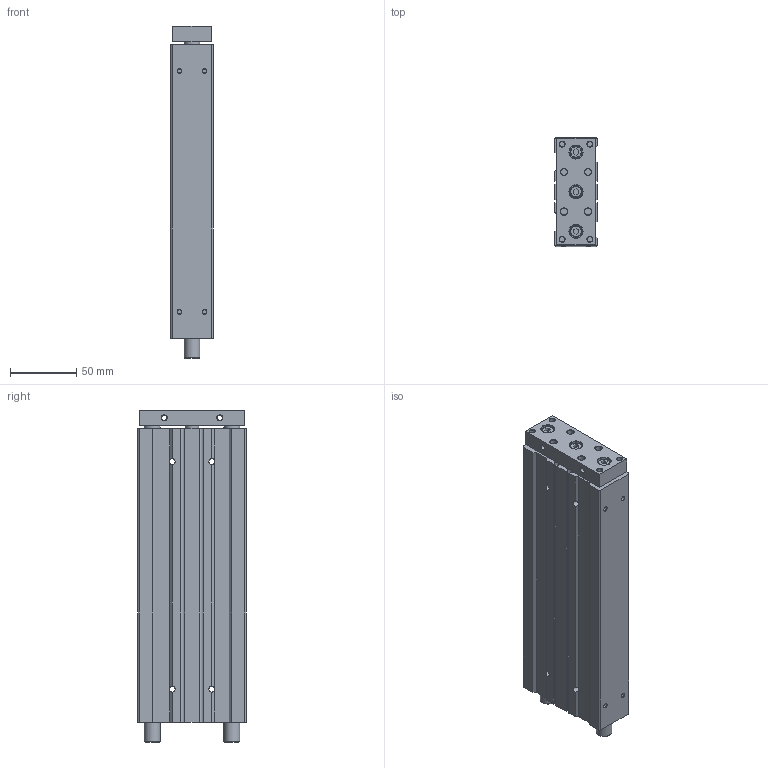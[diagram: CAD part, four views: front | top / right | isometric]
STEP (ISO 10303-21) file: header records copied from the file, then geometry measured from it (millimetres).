
FILE_DESCRIPTION((''),'2;1');
FILE_NAME('I:\3D電子目錄\氣缸\TB(U)\TB(U)20\TB(U)20\TB(U)20x175.stp','2007-08-06T08:21:24',('Administrator'),(''),'Autodesk Inventor 2008','Autodesk Inventor 2008','');
FILE_SCHEMA(('AUTOMOTIVE_DESIGN { 1 0 10303 214 1 1 1 1 }'));
Length unit declared in the file: millimetre
Products named in the file (1): TB(U)20X175
Bounding box: 32 x 82 x 250.9 mm (x, y, z)
Volume: 569593.3 mm3; surface area: 80105.3 mm2
Topology: 1 solids, 1 shells, 188 faces, 424 edges, 268 vertices
Faces by surface type: plane 90, cylinder 50, cone 37, bspline 8, torus 3
Full cylindrical faces by diameter (mm): 3 x4, 4 x6, 4.4 x4, 5 x10, 8 x4, 9 x3, 10 x4, 12 x4, 19 x2, 22 x1
Entity records: 4948 total; most frequent: CARTESIAN_POINT 875, DIRECTION 860, ORIENTED_EDGE 676, AXIS2_PLACEMENT_3D 341, EDGE_CURVE 338, EDGE_LOOP 336, VERTEX_POINT 268, FACE_OUTER_BOUND 188
